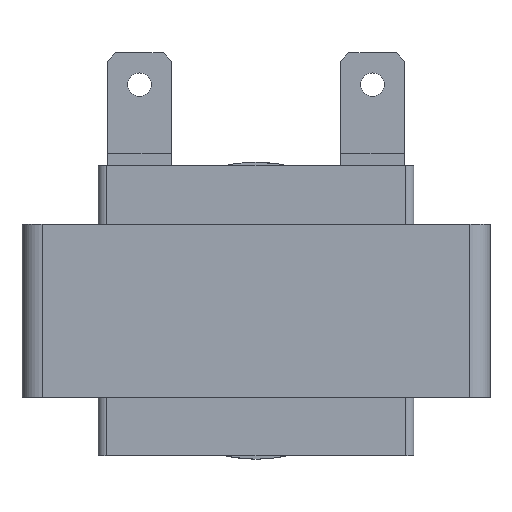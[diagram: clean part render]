
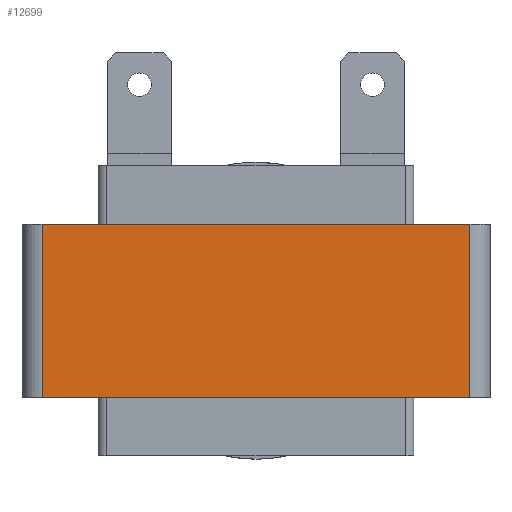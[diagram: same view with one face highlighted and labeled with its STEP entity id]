
A CAD part, front view. The second image highlights one B-rep face of the part: STEP entity #12699.
In plain terms, the highlighted planar face has unit normal (0, -1, 0).
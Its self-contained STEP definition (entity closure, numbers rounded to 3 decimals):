
#412 = EDGE_CURVE ( 'NONE', #10266, #2571, #9226, .T. ) ;
#600 = CARTESIAN_POINT ( 'NONE',  ( 25.43, -14.391, 10.3 ) ) ;
#709 = FACE_OUTER_BOUND ( 'NONE', #10304, .T. ) ;
#805 = ORIENTED_EDGE ( 'NONE', *, *, #880, .F. ) ;
#835 = DIRECTION ( 'NONE',  ( 0., 0., -1. ) ) ;
#880 = EDGE_CURVE ( 'NONE', #10266, #14964, #10991, .T. ) ;
#1178 = DIRECTION ( 'NONE',  ( 0., 0., 1. ) ) ;
#1365 = CARTESIAN_POINT ( 'NONE',  ( -25.43, -14.391, 10.3 ) ) ;
#1412 = LINE ( 'NONE', #600, #13398 ) ;
#2499 = PLANE ( 'NONE',  #9287 ) ;
#2571 = VERTEX_POINT ( 'NONE', #9786 ) ;
#3807 = EDGE_CURVE ( 'NONE', #2571, #12859, #8339, .T. ) ;
#4063 = CARTESIAN_POINT ( 'NONE',  ( 25.43, -14.391, 10.3 ) ) ;
#5438 = CARTESIAN_POINT ( 'NONE',  ( -25.43, -14.391, 10.3 ) ) ;
#5459 = CARTESIAN_POINT ( 'NONE',  ( -25.43, -14.391, 10.3 ) ) ;
#5759 = VECTOR ( 'NONE', #835, 1000. ) ;
#6021 = CARTESIAN_POINT ( 'NONE',  ( 25.43, -14.391, -10.3 ) ) ;
#7207 = VECTOR ( 'NONE', #7706, 1000. ) ;
#7407 = ORIENTED_EDGE ( 'NONE', *, *, #8008, .F. ) ;
#7706 = DIRECTION ( 'NONE',  ( 1., 0., 0. ) ) ;
#8008 = EDGE_CURVE ( 'NONE', #14964, #12859, #1412, .T. ) ;
#8097 = DIRECTION ( 'NONE',  ( 0., 1., 0. ) ) ;
#8230 = ORIENTED_EDGE ( 'NONE', *, *, #412, .T. ) ;
#8339 = LINE ( 'NONE', #13975, #13779 ) ;
#9226 = LINE ( 'NONE', #5459, #5759 ) ;
#9287 = AXIS2_PLACEMENT_3D ( 'NONE', #14086, #8097, #1178 ) ;
#9370 = DIRECTION ( 'NONE',  ( 1., 0., 0. ) ) ;
#9786 = CARTESIAN_POINT ( 'NONE',  ( -25.43, -14.391, -10.3 ) ) ;
#10266 = VERTEX_POINT ( 'NONE', #1365 ) ;
#10304 = EDGE_LOOP ( 'NONE', ( #12431, #7407, #805, #8230 ) ) ;
#10991 = LINE ( 'NONE', #5438, #7207 ) ;
#12431 = ORIENTED_EDGE ( 'NONE', *, *, #3807, .T. ) ;
#12699 = ADVANCED_FACE ( 'NONE', ( #709 ), #2499, .F. ) ;
#12859 = VERTEX_POINT ( 'NONE', #6021 ) ;
#13398 = VECTOR ( 'NONE', #14603, 1000. ) ;
#13779 = VECTOR ( 'NONE', #9370, 1000. ) ;
#13975 = CARTESIAN_POINT ( 'NONE',  ( -25.43, -14.391, -10.3 ) ) ;
#14086 = CARTESIAN_POINT ( 'NONE',  ( -25.43, -14.391, 10.3 ) ) ;
#14603 = DIRECTION ( 'NONE',  ( 0., 0., -1. ) ) ;
#14964 = VERTEX_POINT ( 'NONE', #4063 ) ;
